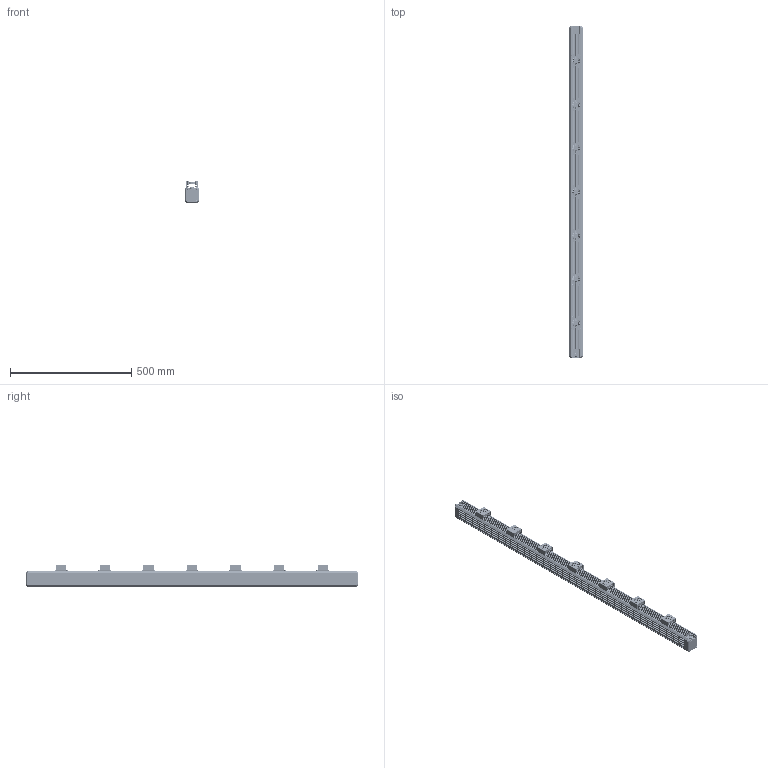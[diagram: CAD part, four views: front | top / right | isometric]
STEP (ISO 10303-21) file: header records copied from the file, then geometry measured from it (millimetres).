
FILE_DESCRIPTION((''),'2;1');
FILE_NAME('MV-LTDS-H-1300-W','2022-09-02T17:06:11',('huguozhe'),(''),'CREO PARAMETRIC BY PTC INC, 2020044','CREO PARAMETRIC BY PTC INC, 2020044','');
FILE_SCHEMA(('AUTOMOTIVE_DESIGN { 1 0 10303 214 1 1 1 1 }'));
Products named in the file (1): MV-LTDS-H-1300-W
Bounding box: 58 x 1370 x 90.6 mm (x, y, z)
Volume: 3716527.9 mm3; surface area: 1129574.3 mm2
Topology: 1 solids, 367 shells, 7417 faces, 19255 edges, 11966 vertices
Faces by surface type: plane 3619, cylinder 2530, cone 762, torus 406, bspline 100
Entity records: 272025 total; most frequent: CARTESIAN_POINT 55077, DIRECTION 40087, ORIENTED_EDGE 36694, EDGE_CURVE 18791, AXIS2_PLACEMENT_3D 15354, VERTEX_POINT 11966, VECTOR 9379, LINE 9379
